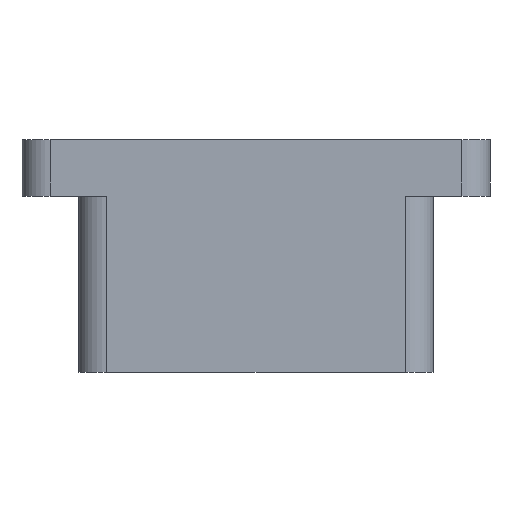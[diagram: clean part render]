
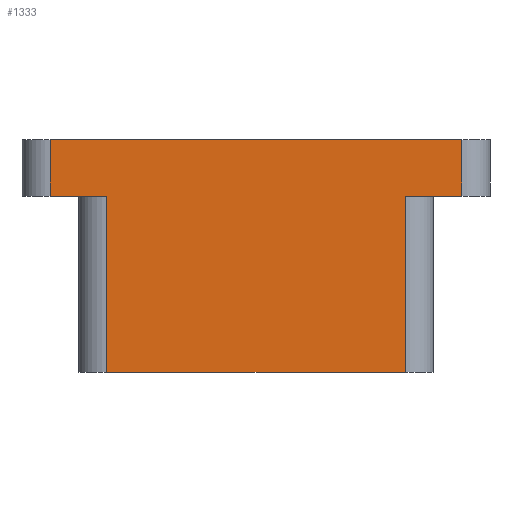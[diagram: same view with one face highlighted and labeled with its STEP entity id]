
A CAD part, front view. The second image highlights one B-rep face of the part: STEP entity #1333.
In plain terms, the highlighted planar face has unit normal (0, -1, 0).
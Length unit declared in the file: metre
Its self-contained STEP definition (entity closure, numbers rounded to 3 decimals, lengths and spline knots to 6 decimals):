
#108=ORIENTED_EDGE('',*,*,#504,.T.);
#109=ORIENTED_EDGE('',*,*,#505,.T.);
#110=ORIENTED_EDGE('',*,*,#506,.T.);
#111=ORIENTED_EDGE('',*,*,#507,.T.);
#112=ORIENTED_EDGE('',*,*,#508,.F.);
#113=ORIENTED_EDGE('',*,*,#509,.T.);
#114=ORIENTED_EDGE('',*,*,#510,.F.);
#115=ORIENTED_EDGE('',*,*,#511,.T.);
#504=EDGE_CURVE('',#702,#703,#829,.T.);
#505=EDGE_CURVE('',#703,#704,#830,.T.);
#506=EDGE_CURVE('',#704,#705,#831,.T.);
#507=EDGE_CURVE('',#705,#706,#832,.F.);
#508=EDGE_CURVE('',#707,#706,#833,.T.);
#509=EDGE_CURVE('',#707,#708,#834,.F.);
#510=EDGE_CURVE('',#709,#708,#835,.T.);
#511=EDGE_CURVE('',#709,#702,#836,.T.);
#702=VERTEX_POINT('',#1975);
#703=VERTEX_POINT('',#1976);
#704=VERTEX_POINT('',#1978);
#705=VERTEX_POINT('',#1980);
#706=VERTEX_POINT('',#1982);
#707=VERTEX_POINT('',#1984);
#708=VERTEX_POINT('',#1986);
#709=VERTEX_POINT('',#1988);
#829=LINE('',#1974,#989);
#830=LINE('',#1977,#990);
#831=LINE('',#1979,#991);
#832=LINE('',#1981,#992);
#833=LINE('',#1983,#993);
#834=LINE('',#1985,#994);
#835=LINE('',#1987,#995);
#836=LINE('',#1989,#996);
#989=VECTOR('',#1569,1.);
#990=VECTOR('',#1570,1.);
#991=VECTOR('',#1571,1.);
#992=VECTOR('',#1572,1.);
#993=VECTOR('',#1573,1.);
#994=VECTOR('',#1574,1.);
#995=VECTOR('',#1575,1.);
#996=VECTOR('',#1576,1.);
#1119=EDGE_LOOP('',(#108,#109,#110,#111,#112,#113,#114,#115));
#1203=FACE_BOUND('',#1119,.T.);
#1284=PLANE('',#1417);
#1333=ADVANCED_FACE('',(#1203),#1284,.F.);
#1417=AXIS2_PLACEMENT_3D('',#1973,#1567,#1568);
#1567=DIRECTION('',(0.,1.,0.));
#1568=DIRECTION('',(0.,0.,1.));
#1569=DIRECTION('',(1.,0.,0.));
#1570=DIRECTION('',(0.,0.,1.));
#1571=DIRECTION('',(-1.,0.,0.));
#1572=DIRECTION('',(0.,0.,1.));
#1573=DIRECTION('',(-1.,0.,0.));
#1574=DIRECTION('',(0.,0.,1.));
#1575=DIRECTION('',(-1.,0.,0.));
#1576=DIRECTION('',(0.,0.,1.));
#1973=CARTESIAN_POINT('',(0.00415,-0.019775,-0.005));
#1974=CARTESIAN_POINT('',(0.01145,-0.019775,0.00125));
#1975=CARTESIAN_POINT('',(0.00945,-0.019775,0.00125));
#1976=CARTESIAN_POINT('',(0.01145,-0.019775,0.00125));
#1977=CARTESIAN_POINT('',(0.01145,-0.019775,0.00325));
#1978=CARTESIAN_POINT('',(0.01145,-0.019775,0.00325));
#1979=CARTESIAN_POINT('',(0.00415,-0.019775,0.00325));
#1980=CARTESIAN_POINT('',(-0.00315,-0.019775,0.00325));
#1981=CARTESIAN_POINT('',(-0.00315,-0.019775,-0.005));
#1982=CARTESIAN_POINT('',(-0.00315,-0.019775,0.00125));
#1983=CARTESIAN_POINT('',(-0.00315,-0.019775,0.00125));
#1984=CARTESIAN_POINT('',(-0.00115,-0.019775,0.00125));
#1985=CARTESIAN_POINT('',(-0.00115,-0.019775,-0.005));
#1986=CARTESIAN_POINT('',(-0.00115,-0.019775,-0.005));
#1987=CARTESIAN_POINT('',(0.00415,-0.019775,-0.005));
#1988=CARTESIAN_POINT('',(0.00945,-0.019775,-0.005));
#1989=CARTESIAN_POINT('',(0.00945,-0.019775,-0.005));
